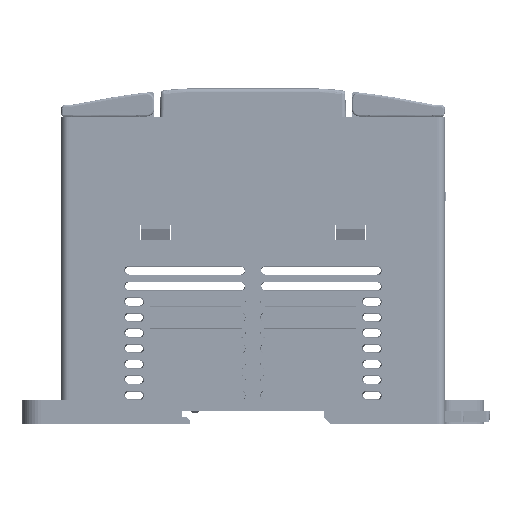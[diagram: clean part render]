
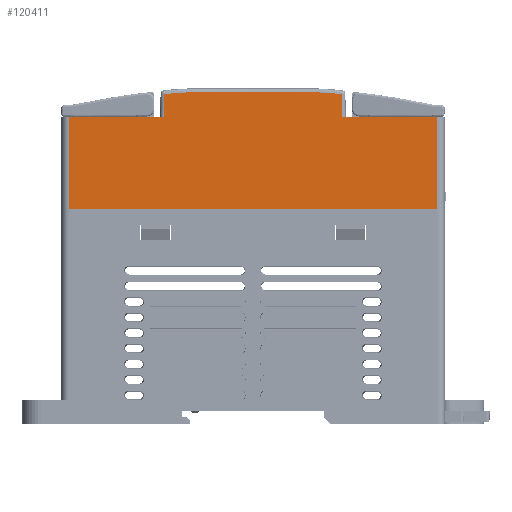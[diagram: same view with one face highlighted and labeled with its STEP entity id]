
A CAD part, left-side view. The second image highlights one B-rep face of the part: STEP entity #120411.
In plain terms, the highlighted planar face has unit normal (-1, 0, 0).
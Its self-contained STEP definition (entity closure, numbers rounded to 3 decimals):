
#110314=DIRECTION('',(0.,-0.017,
1.));
#110315=VECTOR('',#110314,5.73);
#110316=CARTESIAN_POINT('',(65.5,69.558,37.85));
#110317=LINE('',#110316,#110315);
#110318=CARTESIAN_POINT('',(65.5,69.458,
43.579));
#110319=CARTESIAN_POINT('',(65.5,69.42,
43.585));
#110320=CARTESIAN_POINT('',(65.5,69.289,
43.603));
#110321=CARTESIAN_POINT('',(65.5,69.052,
43.634));
#110322=CARTESIAN_POINT('',(65.5,68.737,
43.673));
#110323=CARTESIAN_POINT('',(65.5,68.45,
43.706));
#110324=CARTESIAN_POINT('',(65.5,68.269,43.725));
#110325=CARTESIAN_POINT('',(65.5,68.204,43.732));
#110327=CARTESIAN_POINT('',(65.5,68.204,43.732));
#110328=CARTESIAN_POINT('',(65.5,68.113,43.742));
#110329=CARTESIAN_POINT('',(65.5,67.85,
43.769));
#110330=CARTESIAN_POINT('',(65.5,67.427,43.809));
#110331=CARTESIAN_POINT('',(65.5,66.957,43.849));
#110332=CARTESIAN_POINT('',(65.5,66.539,43.882));
#110333=CARTESIAN_POINT('',(65.5,66.174,43.908));
#110334=CARTESIAN_POINT('',(65.5,65.85,43.93));
#110335=CARTESIAN_POINT('',(65.5,65.559,43.949));
#110336=CARTESIAN_POINT('',(65.5,65.296,43.965));
#110337=CARTESIAN_POINT('',(65.5,65.059,43.979));
#110338=CARTESIAN_POINT('',(65.5,64.844,43.99));
#110339=CARTESIAN_POINT('',(65.5,64.65,44.001));
#110340=CARTESIAN_POINT('',(65.5,64.475,44.009));
#110341=CARTESIAN_POINT('',(65.5,64.319,44.017));
#110342=CARTESIAN_POINT('',(65.5,64.179,
44.023));
#110343=CARTESIAN_POINT('',(65.5,64.049,44.029));
#110344=CARTESIAN_POINT('',(65.5,63.924,
44.034));
#110345=CARTESIAN_POINT('',(65.5,63.802,
44.039));
#110346=CARTESIAN_POINT('',(65.5,63.674,
44.043));
#110347=CARTESIAN_POINT('',(65.5,63.581,
44.047));
#110348=CARTESIAN_POINT('',(65.5,63.465,
44.05));
#110349=CARTESIAN_POINT('',(65.5,63.451,44.05));
#110351=CARTESIAN_POINT('',(65.5,30.049,44.05));
#110352=CARTESIAN_POINT('',(65.5,30.035,44.05));
#110353=CARTESIAN_POINT('',(65.5,29.923,44.047));
#110354=CARTESIAN_POINT('',(65.5,29.833,44.044));
#110355=CARTESIAN_POINT('',(65.5,29.707,44.039));
#110356=CARTESIAN_POINT('',(65.5,29.589,44.035));
#110357=CARTESIAN_POINT('',(65.5,29.468,44.029));
#110358=CARTESIAN_POINT('',(65.5,29.343,44.024));
#110359=CARTESIAN_POINT('',(65.5,29.208,44.018));
#110360=CARTESIAN_POINT('',(65.5,29.06,44.011));
#110361=CARTESIAN_POINT('',(65.5,28.895,44.003));
#110362=CARTESIAN_POINT('',(65.5,28.711,43.993));
#110363=CARTESIAN_POINT('',(65.5,28.508,43.982));
#110364=CARTESIAN_POINT('',(65.5,28.285,43.97));
#110365=CARTESIAN_POINT('',(65.5,28.043,43.955));
#110366=CARTESIAN_POINT('',(65.5,27.78,43.939));
#110367=CARTESIAN_POINT('',(65.5,27.493,43.92));
#110368=CARTESIAN_POINT('',(65.5,27.18,43.898));
#110369=CARTESIAN_POINT('',(65.5,26.832,43.872));
#110370=CARTESIAN_POINT('',(65.5,26.442,43.84));
#110371=CARTESIAN_POINT('',(65.5,26.009,43.803));
#110372=CARTESIAN_POINT('',(65.5,25.621,43.766));
#110373=CARTESIAN_POINT('',(65.5,25.38,43.741));
#110374=CARTESIAN_POINT('',(65.5,25.296,43.732));
#110376=CARTESIAN_POINT('',(65.5,25.296,43.732));
#110377=CARTESIAN_POINT('',(65.5,25.236,43.726));
#110378=CARTESIAN_POINT('',(65.5,25.066,43.708));
#110379=CARTESIAN_POINT('',(65.5,24.799,43.677));
#110380=CARTESIAN_POINT('',(65.5,24.508,
43.642));
#110381=CARTESIAN_POINT('',(65.5,24.26,
43.61));
#110382=CARTESIAN_POINT('',(65.5,24.108,
43.589));
#110383=CARTESIAN_POINT('',(65.5,24.042,
43.579));
#110385=DIRECTION('',(0.,-0.017,
-1.));
#110386=VECTOR('',#110385,5.73);
#110387=CARTESIAN_POINT('',(65.5,24.042,
43.579));
#110388=LINE('',#110387,#110386);
#110389=DIRECTION('',(0.,-1.,0.));
#110390=VECTOR('',#110389,24.442);
#110391=CARTESIAN_POINT('',(65.5,23.942,37.85));
#110392=LINE('',#110391,#110390);
#110393=DIRECTION('',(0.,1.,0.));
#110394=VECTOR('',#110393,94.5);
#110395=CARTESIAN_POINT('',(65.5,-0.5,14.15));
#110396=LINE('',#110395,#110394);
#110397=DIRECTION('',(0.,-1.,0.));
#110398=VECTOR('',#110397,24.442);
#110399=CARTESIAN_POINT('',(65.5,94.,37.85));
#110400=LINE('',#110399,#110398);
#110417=CARTESIAN_POINT('',(65.5,69.558,37.85));
#111009=DIRECTION('',(0.,0.,-1.));
#111010=VECTOR('',#111009,23.7);
#111011=CARTESIAN_POINT('',(65.5,94.,37.85));
#111012=LINE('',#111011,#111010);
#112055=DIRECTION('',(0.,0.,1.));
#112056=VECTOR('',#112055,23.7);
#112057=CARTESIAN_POINT('',(65.5,-0.5,14.15));
#112058=LINE('',#112057,#112056);
#113528=DIRECTION('',(0.,1.,0.));
#113529=VECTOR('',#113528,33.401);
#113530=CARTESIAN_POINT('',(65.5,30.049,44.05));
#113531=LINE('',#113530,#113529);
#113561=CARTESIAN_POINT('',(65.5,68.204,43.732));
#117798=VERTEX_POINT('',#110417);
#117799=CARTESIAN_POINT('',(65.5,94.,37.85));
#117800=VERTEX_POINT('',#117799);
#117845=CARTESIAN_POINT('',(65.5,-0.5,37.85));
#117846=VERTEX_POINT('',#117845);
#117847=CARTESIAN_POINT('',(65.5,23.942,37.85));
#117848=VERTEX_POINT('',#117847);
#118373=CARTESIAN_POINT('',(65.5,69.458,43.579));
#118374=VERTEX_POINT('',#118373);
#118378=VERTEX_POINT('',#113561);
#118546=CARTESIAN_POINT('',(65.5,24.042,
43.579));
#118547=VERTEX_POINT('',#118546);
#118548=VERTEX_POINT('',#110376);
#118549=VERTEX_POINT('',#110349);
#118550=CARTESIAN_POINT('',(65.5,30.049,44.05));
#118551=VERTEX_POINT('',#118550);
#118552=CARTESIAN_POINT('',(65.5,-0.5,14.15));
#118553=VERTEX_POINT('',#118552);
#118554=CARTESIAN_POINT('',(65.5,94.,14.15));
#118555=VERTEX_POINT('',#118554);
#120381=CARTESIAN_POINT('',(65.5,0.15,-37.25));
#120382=DIRECTION('',(-1.,0.,0.));
#120383=DIRECTION('',(0.,0.,1.));
#120384=AXIS2_PLACEMENT_3D('',#120381,#120382,#120383);
#120385=PLANE('',#120384);
#120387=ORIENTED_EDGE('',*,*,#120386,.T.);
#120389=ORIENTED_EDGE('',*,*,#120388,.T.);
#120391=ORIENTED_EDGE('',*,*,#120390,.T.);
#120393=ORIENTED_EDGE('',*,*,#120392,.F.);
#120395=ORIENTED_EDGE('',*,*,#120394,.T.);
#120397=ORIENTED_EDGE('',*,*,#120396,.T.);
#120399=ORIENTED_EDGE('',*,*,#120398,.T.);
#120401=ORIENTED_EDGE('',*,*,#120400,.T.);
#120403=ORIENTED_EDGE('',*,*,#120402,.F.);
#120404=ORIENTED_EDGE('',*,*,#120337,.T.);
#120406=ORIENTED_EDGE('',*,*,#120405,.F.);
#120408=ORIENTED_EDGE('',*,*,#120407,.T.);
#120409=EDGE_LOOP('',(#120387,#120389,#120391,#120393,#120395,#120397,#120399,
#120401,#120403,#120404,#120406,#120408));
#120410=FACE_OUTER_BOUND('',#120409,.F.);
#120411=ADVANCED_FACE('',(#120410),#120385,.T.);
#110326=B_SPLINE_CURVE_WITH_KNOTS('',3,(#110318,#110319,#110320,#110321,#110322,
#110323,#110324,#110325),.UNSPECIFIED.,.F.,.F.,(4,1,1,1,1,4),(0.,
0.092,0.315,0.567,0.846,1.),
.UNSPECIFIED.);
#110350=B_SPLINE_CURVE_WITH_KNOTS('',3,(#110327,#110328,#110329,#110330,#110331,
#110332,#110333,#110334,#110335,#110336,#110337,#110338,#110339,#110340,#110341,
#110342,#110343,#110344,#110345,#110346,#110347,#110348,#110349),.UNSPECIFIED.,
.F.,.F.,(4,1,1,1,1,1,1,1,1,1,1,1,1,1,1,1,1,1,1,1,4),(0.,0.058,
0.167,0.268,0.355,0.431,
0.499,0.56,0.615,0.665,
0.71,0.751,0.787,0.82,
0.849,0.876,0.902,0.928,
0.954,0.979,1.),.UNSPECIFIED.);
#110375=B_SPLINE_CURVE_WITH_KNOTS('',3,(#110351,#110352,#110353,#110354,#110355,
#110356,#110357,#110358,#110359,#110360,#110361,#110362,#110363,#110364,#110365,
#110366,#110367,#110368,#110369,#110370,#110371,#110372,#110373,#110374),
.UNSPECIFIED.,.F.,.F.,(4,1,1,1,1,1,1,1,1,1,1,1,1,1,1,1,1,1,1,1,1,4),(0.,
0.02,0.045,0.07,0.096,
0.121,0.147,0.174,0.205,
0.24,0.279,0.321,0.368,
0.419,0.474,0.534,0.6,
0.673,0.754,0.847,0.947,1.),
.UNSPECIFIED.);
#110384=B_SPLINE_CURVE_WITH_KNOTS('',3,(#110376,#110377,#110378,#110379,#110380,
#110381,#110382,#110383),.UNSPECIFIED.,.F.,.F.,(4,1,1,1,1,4),(0.,
0.144,0.405,0.636,0.839,1.),
.UNSPECIFIED.);
#120337=EDGE_CURVE('',#118553,#118555,#110396,.T.);
#120386=EDGE_CURVE('',#117798,#118374,#110317,.T.);
#120388=EDGE_CURVE('',#118374,#118378,#110326,.T.);
#120390=EDGE_CURVE('',#118378,#118549,#110350,.T.);
#120392=EDGE_CURVE('',#118551,#118549,#113531,.T.);
#120394=EDGE_CURVE('',#118551,#118548,#110375,.T.);
#120396=EDGE_CURVE('',#118548,#118547,#110384,.T.);
#120398=EDGE_CURVE('',#118547,#117848,#110388,.T.);
#120400=EDGE_CURVE('',#117848,#117846,#110392,.T.);
#120402=EDGE_CURVE('',#118553,#117846,#112058,.T.);
#120405=EDGE_CURVE('',#117800,#118555,#111012,.T.);
#120407=EDGE_CURVE('',#117800,#117798,#110400,.T.);
